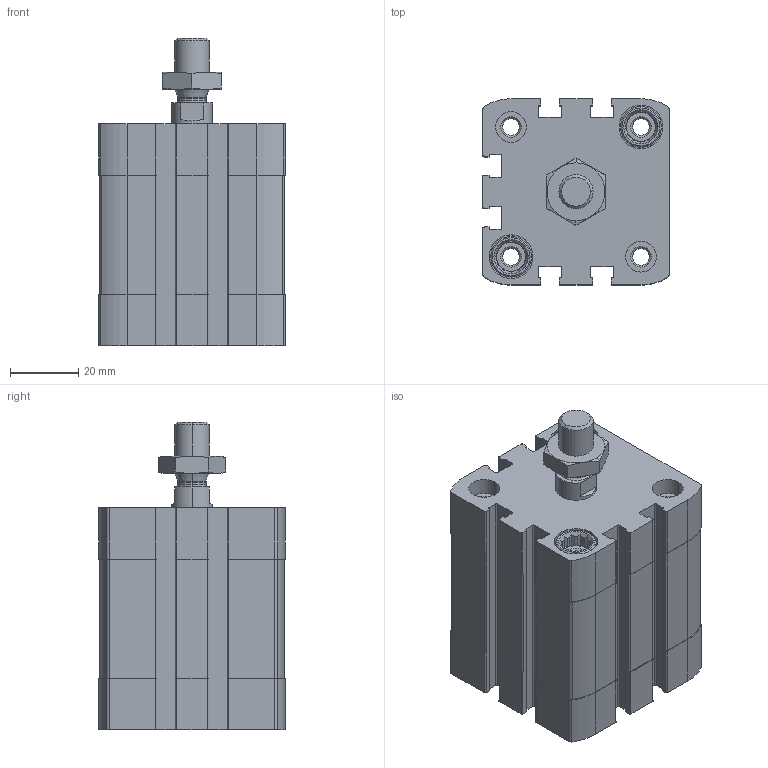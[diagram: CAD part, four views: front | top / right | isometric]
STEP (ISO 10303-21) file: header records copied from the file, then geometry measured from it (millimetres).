
FILE_DESCRIPTION (( 'STEP AP203' ), '1' );
FILE_NAME ('CCN40-20M.STEP', '2017-03-30T13:09:43', ( '' ), ( '' ), 'SwSTEP 2.0', 'SolidWorks 2016', '' );
FILE_SCHEMA (( 'CONFIG_CONTROL_DESIGN' ));
Length unit declared in the file: millimetre
Products named in the file (4): CCN-20---(Z); CCN-20_(KS); DIN-439-B - M10x1_25(F); CCN40-20M
Assembly tree (3 placements, depth 2):
  CCN40-20M
    CCN-20---(Z)
    CCN-20_(KS)
    DIN-439-B - M10x1_25(F)
Bounding box: 54.5 x 54.5 x 90.1 mm (x, y, z)
Volume: 146970.1 mm3; surface area: 45082.3 mm2
Topology: 3 solids, 3 shells, 499 faces, 1332 edges, 870 vertices
Faces by surface type: plane 275, cylinder 172, cone 48, bspline 4
Entity records: 16226 total; most frequent: CARTESIAN_POINT 3115, DIRECTION 2716, ORIENTED_EDGE 2664, EDGE_CURVE 1332, AXIS2_PLACEMENT_3D 995, VERTEX_POINT 870, VECTOR 726, LINE 726
